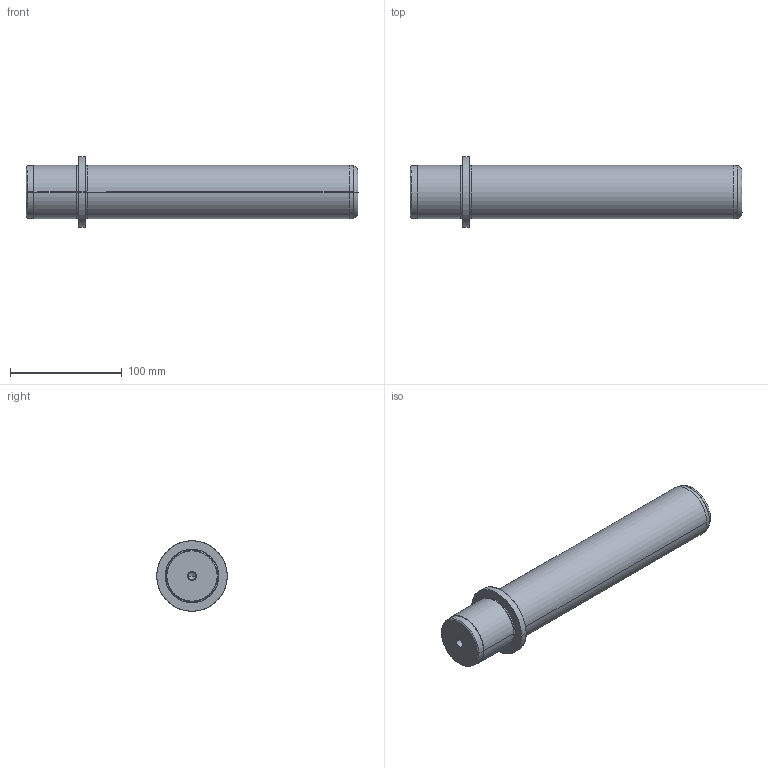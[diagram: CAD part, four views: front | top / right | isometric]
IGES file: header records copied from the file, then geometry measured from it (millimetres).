
Start section: SolidWorks IGES FILE using analytic representation for surfaces
Global section: file name: D:\zzzzz\Delta\D06\48\D06 - 48x250x47.IGS; native system: SolidWorks 2004 by SolidWorks Corporation; preprocessor: Version 5.3; author: Hkn; date: 080327.151312; units: millimetre
Bounding box: 297 x 63 x 63 mm (x, y, z)
Surface area: 52258.8 mm2 (no closed solid volume)
Topology: 0 solids, 0 shells, 39 faces, 1080 edges, 1076 vertices
Faces by surface type: revolution 28, bspline 11
